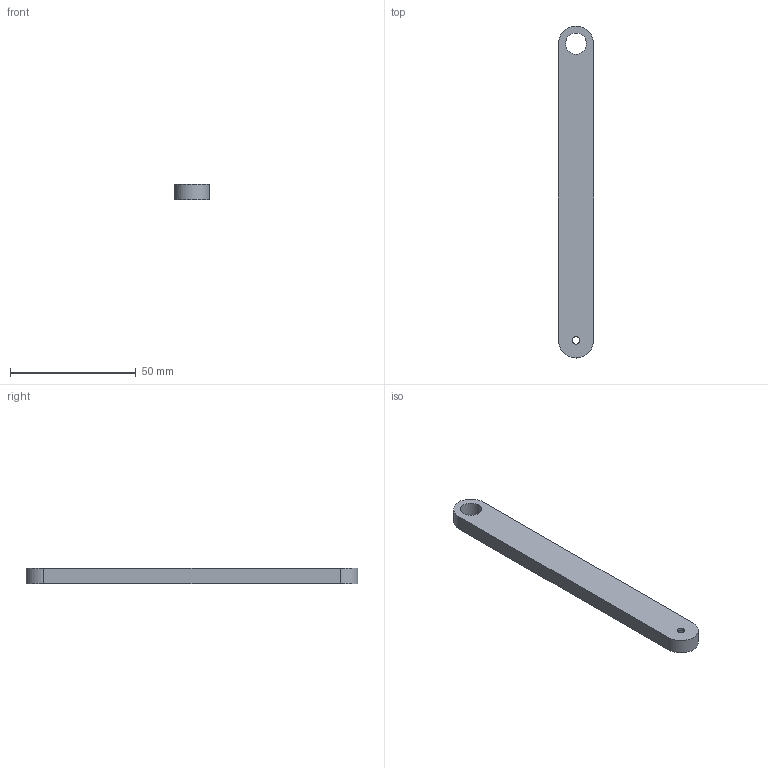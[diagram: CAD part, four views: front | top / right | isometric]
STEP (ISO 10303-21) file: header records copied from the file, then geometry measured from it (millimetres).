
FILE_DESCRIPTION(/* description */ (''),/* implementation_level */ '2;1');
FILE_NAME(/* name */ 'Link 5.step',/* time_stamp */ '2026-11-10T17:34:35+07:00',/* author */ (''),/* organization */ (''),/* preprocessor_version */ 'ST-DEVELOPER v20.2',/* originating_system */ 'Autodesk Translation Framework v15.17.0.0',/* authorisation */ '');
FILE_SCHEMA (('AUTOMOTIVE_DESIGN { 1 0 10303 214 3 1 1 }'));
Length unit declared in the file: millimetre
Products named in the file (1): 2026-11-08-15-01-00-835
Bounding box: 14 x 132 x 6 mm (x, y, z)
Volume: 10219 mm3; surface area: 5466.5 mm2
Topology: 1 solids, 1 shells, 10 faces, 21 edges, 14 vertices
Faces by surface type: cylinder 5, plane 5
Full cylindrical faces by diameter (mm): 3 x1, 8.4 x2
Entity records: 323 total; most frequent: DIRECTION 53, CARTESIAN_POINT 46, ORIENTED_EDGE 42, EDGE_CURVE 21, AXIS2_PLACEMENT_3D 21, EDGE_LOOP 15, VERTEX_POINT 14, LINE 11
